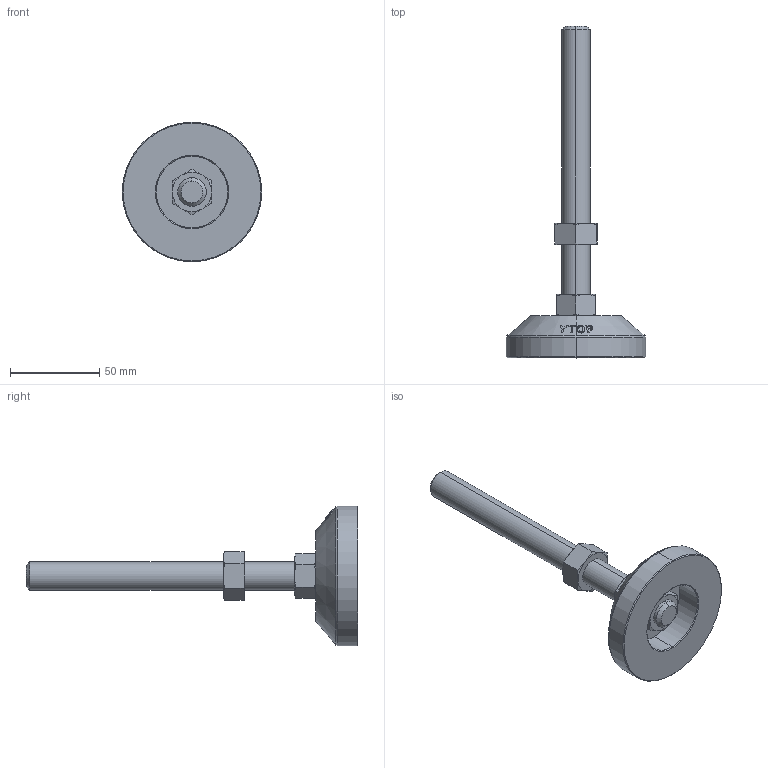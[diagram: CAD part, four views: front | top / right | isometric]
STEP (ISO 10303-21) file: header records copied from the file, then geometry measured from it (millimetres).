
FILE_DESCRIPTION (( 'STEP AP203' ), '1' );
FILE_NAME ('M-80-16150-S.STEP', '2020-09-10T07:00:29', ( '' ), ( '' ), 'SwSTEP 2.0', 'SolidWorks 2016', '' );
FILE_SCHEMA (( 'CONFIG_CONTROL_DESIGN' ));
Length unit declared in the file: millimetre
Products named in the file (5): M-80-1褐菜 ; M-80-16150-S; 脚垫锁紧六角薄螺母M16; 不锈钢双头螺杆M16系列_M16X150; 脚垫调节六角螺母M16
Assembly tree (4 placements, depth 2):
  M-80-16150-S
    M-80-1褐菜 
    不锈钢双头螺杆M16系列_M16X150
    脚垫锁紧六角薄螺母M16
    脚垫调节六角螺母M16
Bounding box: 78 x 185.5 x 78 mm (x, y, z)
Volume: 119893.3 mm3; surface area: 28615.4 mm2
Topology: 4 solids, 4 shells, 143 faces, 326 edges, 200 vertices
Faces by surface type: cone 62, bspline 38, plane 29, cylinder 14
Entity records: 8411 total; most frequent: CARTESIAN_POINT 5074, ORIENTED_EDGE 652, DIRECTION 456, EDGE_CURVE 326, VERTEX_POINT 200, AXIS2_PLACEMENT_3D 196, B_SPLINE_CURVE_WITH_KNOTS 178, EDGE_LOOP 158
